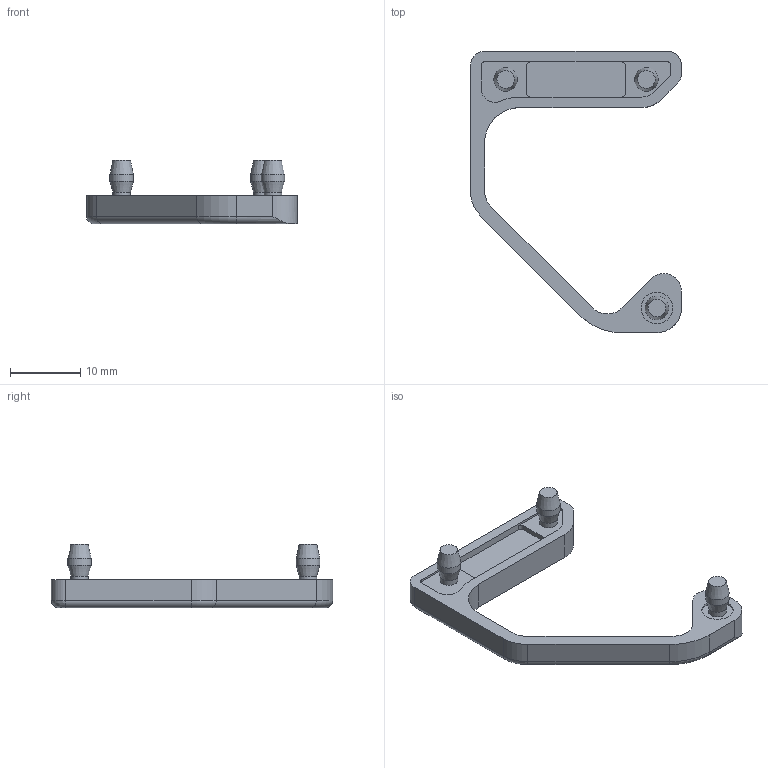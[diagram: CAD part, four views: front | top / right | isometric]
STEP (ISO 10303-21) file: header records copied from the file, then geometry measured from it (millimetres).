
FILE_DESCRIPTION(/* description */ ('Abdeckkappe Griffleistenprofil 30x40 unten'),/* implementation_level */ '2;1');
FILE_NAME(/* name */ 'C:\Users\MatthiasBoeke\Desktop\MK100059L_A.stp',/* time_stamp */ '2022-06-22T14:22:03+02:00',/* author */ ('matthiasboeke'),/* organization */ (''),/* preprocessor_version */ 'ST-DEVELOPER v18.1',/* originating_system */ 'Autodesk Inventor 2020',/* authorisation */ '');
FILE_SCHEMA (('AUTOMOTIVE_DESIGN { 1 0 10303 214 3 1 1 }'));
Length unit declared in the file: millimetre
Products named in the file (1): MK100059L_A
Bounding box: 30 x 40 x 9 mm (x, y, z)
Volume: 1493.3 mm3; surface area: 1605.3 mm2
Topology: 1 solids, 1 shells, 68 faces, 184 edges, 123 vertices
Faces by surface type: cylinder 32, plane 27, cone 6, torus 2, bspline 1
Full cylindrical faces by diameter (mm): 2.5 x3, 3.35 x3, 4.5 x1
Entity records: 2305 total; most frequent: DIRECTION 402, CARTESIAN_POINT 400, ORIENTED_EDGE 368, EDGE_CURVE 184, AXIS2_PLACEMENT_3D 152, VERTEX_POINT 123, LINE 98, VECTOR 98
